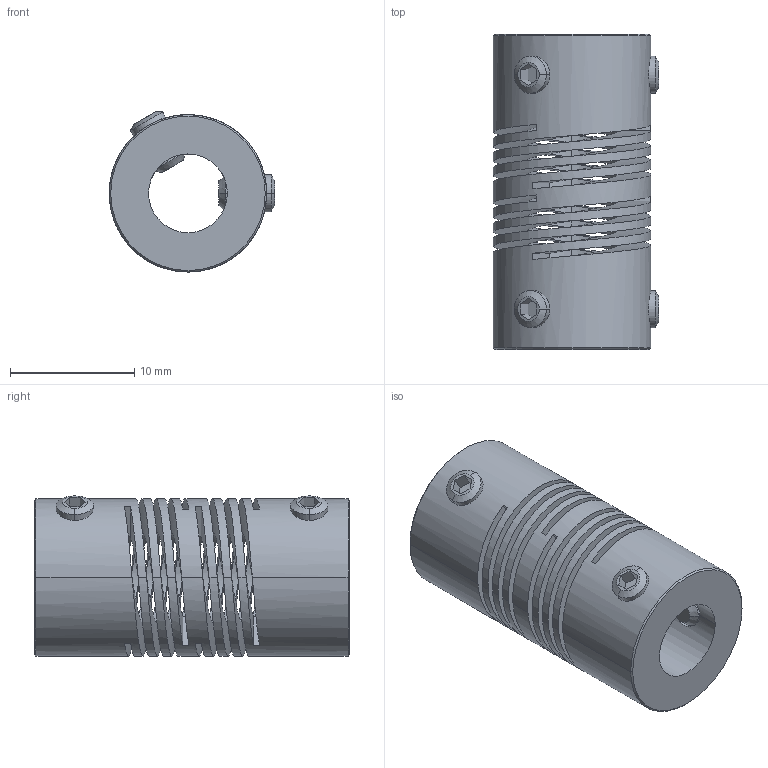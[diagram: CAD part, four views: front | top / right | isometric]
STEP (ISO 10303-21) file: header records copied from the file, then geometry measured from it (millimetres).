
FILE_DESCRIPTION((''),'2;1');
FILE_NAME('722_13_ASM','2006-12-05T',('Gary Melling'),(''),'PRO/ENGINEER BY PARAMETRIC TECHNOLOGY CORPORATION, 2006240','PRO/ENGINEER BY PARAMETRIC TECHNOLOGY CORPORATION, 2006240','');
FILE_SCHEMA(('CONFIG_CONTROL_DESIGN'));
Length unit declared in the file: millimetre
Products named in the file (3): 722_13; GS_3; 722_13_ASM
Assembly tree (5 placements, depth 2):
  722_13_ASM
    722_13
    GS_3  x4
Bounding box: 13.35 x 25.4 x 12.91 mm (x, y, z)
Volume: 1960 mm3; surface area: 3189.4 mm2
Topology: 5 solids, 5 shells, 130 faces, 358 edges, 228 vertices
Faces by surface type: plane 52, cylinder 46, cone 20, bspline 12
Entity records: 5326 total; most frequent: CARTESIAN_POINT 3073, ORIENTED_EDGE 524, DIRECTION 348, EDGE_CURVE 262, VERTEX_POINT 168, VECTOR 130, LINE 130, AXIS2_PLACEMENT_3D 109
